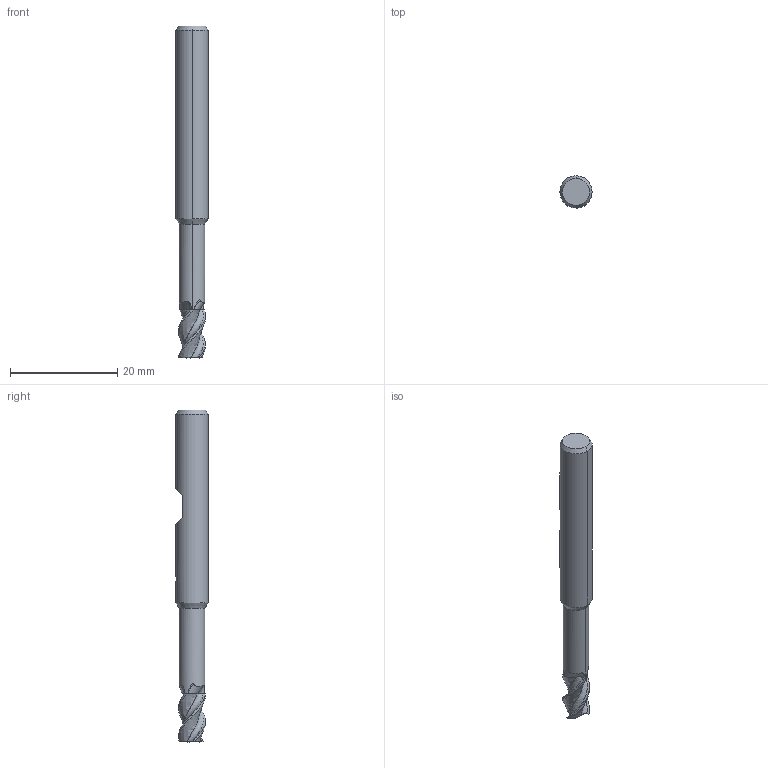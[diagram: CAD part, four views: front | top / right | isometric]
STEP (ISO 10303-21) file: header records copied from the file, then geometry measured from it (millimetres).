
FILE_DESCRIPTION(('no description'),'unknown implementation level');
FILE_NAME('solidnUqLYbqic_EHyTOGg90M9RfGUZo_1.STP',' ',('CIMSOURCE GmbH'),('CADClick - KiM GmbH - www.kimweb.de'),'unknown preprocess','ACIS','unknown authorization');
FILE_SCHEMA(('automotive_design'));
Length unit declared in the file: millimetre
Products named in the file (2): NOCUT; CUT
Bounding box: 6 x 6 x 62 mm (x, y, z)
Volume: 1397 mm3; surface area: 1271.7 mm2
Topology: 2 solids, 2 shells, 106 faces, 297 edges, 194 vertices
Faces by surface type: bspline 36, plane 23, cone 19, cylinder 16, revolution 12
Entity records: 17330 total; most frequent: CARTESIAN_POINT 11624, STYLED_ITEM 599, PRESENTATION_STYLE_ASSIGNMENT 599, COLOUR_RGB 599, ORIENTED_EDGE 594, DIRECTION 339, EDGE_CURVE 297, CURVE_STYLE 297
